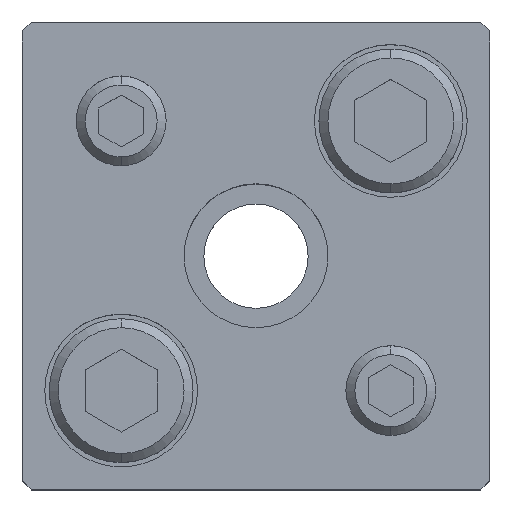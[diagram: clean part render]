
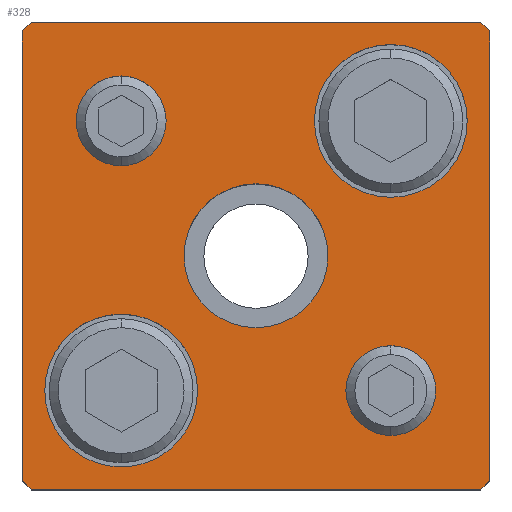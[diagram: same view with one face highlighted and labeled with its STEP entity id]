
A CAD part, top view. The second image highlights one B-rep face of the part: STEP entity #328.
In plain terms, the highlighted planar face has unit normal (0, 0, 1).
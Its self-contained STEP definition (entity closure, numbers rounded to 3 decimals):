
#119=PLANE('',#2702);
#192=FACE_BOUND('',#649,.T.);
#193=FACE_BOUND('',#650,.T.);
#194=FACE_BOUND('',#651,.T.);
#195=FACE_BOUND('',#652,.T.);
#196=FACE_BOUND('',#653,.T.);
#197=FACE_BOUND('',#654,.T.);
#328=ADVANCED_FACE('',(#192,#193,#194,#195,#196,#197),#119,.T.);
#649=EDGE_LOOP('',(#1071,#1072,#1073,#1074,#1075,#1076,#1077,#1078));
#650=EDGE_LOOP('',(#1079,#1080));
#651=EDGE_LOOP('',(#1081,#1082));
#652=EDGE_LOOP('',(#1083,#1084));
#653=EDGE_LOOP('',(#1085,#1086));
#654=EDGE_LOOP('',(#1087,#1088));
#833=CIRCLE('',#2678,5.);
#835=CIRCLE('',#2681,5.);
#837=CIRCLE('',#2684,5.);
#839=CIRCLE('',#2687,5.);
#845=CIRCLE('',#2696,8.5);
#846=CIRCLE('',#2697,8.5);
#847=CIRCLE('',#2698,8.5);
#848=CIRCLE('',#2699,8.5);
#849=CIRCLE('',#2700,8.);
#850=CIRCLE('',#2701,8.);
#1071=ORIENTED_EDGE('',*,*,#1923,.T.);
#1072=ORIENTED_EDGE('',*,*,#1924,.T.);
#1073=ORIENTED_EDGE('',*,*,#1925,.T.);
#1074=ORIENTED_EDGE('',*,*,#1926,.T.);
#1075=ORIENTED_EDGE('',*,*,#1927,.T.);
#1076=ORIENTED_EDGE('',*,*,#1928,.T.);
#1077=ORIENTED_EDGE('',*,*,#1929,.T.);
#1078=ORIENTED_EDGE('',*,*,#1930,.T.);
#1079=ORIENTED_EDGE('',*,*,#1931,.F.);
#1080=ORIENTED_EDGE('',*,*,#1932,.F.);
#1081=ORIENTED_EDGE('',*,*,#1933,.F.);
#1082=ORIENTED_EDGE('',*,*,#1934,.F.);
#1083=ORIENTED_EDGE('',*,*,#1915,.F.);
#1084=ORIENTED_EDGE('',*,*,#1911,.F.);
#1085=ORIENTED_EDGE('',*,*,#1909,.F.);
#1086=ORIENTED_EDGE('',*,*,#1905,.F.);
#1087=ORIENTED_EDGE('',*,*,#1935,.T.);
#1088=ORIENTED_EDGE('',*,*,#1936,.T.);
#1659=VERTEX_POINT('',#3859);
#1660=VERTEX_POINT('',#3860);
#1663=VERTEX_POINT('',#3871);
#1664=VERTEX_POINT('',#3872);
#1671=VERTEX_POINT('',#3895);
#1672=VERTEX_POINT('',#3896);
#1673=VERTEX_POINT('',#3898);
#1674=VERTEX_POINT('',#3900);
#1675=VERTEX_POINT('',#3902);
#1676=VERTEX_POINT('',#3904);
#1677=VERTEX_POINT('',#3906);
#1678=VERTEX_POINT('',#3908);
#1679=VERTEX_POINT('',#3911);
#1680=VERTEX_POINT('',#3912);
#1681=VERTEX_POINT('',#3915);
#1682=VERTEX_POINT('',#3916);
#1683=VERTEX_POINT('',#3919);
#1684=VERTEX_POINT('',#3920);
#1905=EDGE_CURVE('',#1659,#1660,#833,.T.);
#1909=EDGE_CURVE('',#1660,#1659,#835,.T.);
#1911=EDGE_CURVE('',#1663,#1664,#837,.T.);
#1915=EDGE_CURVE('',#1664,#1663,#839,.T.);
#1923=EDGE_CURVE('',#1671,#1672,#2217,.T.);
#1924=EDGE_CURVE('',#1672,#1673,#2218,.T.);
#1925=EDGE_CURVE('',#1673,#1674,#2219,.T.);
#1926=EDGE_CURVE('',#1674,#1675,#2220,.T.);
#1927=EDGE_CURVE('',#1675,#1676,#2221,.T.);
#1928=EDGE_CURVE('',#1676,#1677,#2222,.T.);
#1929=EDGE_CURVE('',#1677,#1678,#2223,.T.);
#1930=EDGE_CURVE('',#1678,#1671,#2224,.T.);
#1931=EDGE_CURVE('',#1679,#1680,#845,.T.);
#1932=EDGE_CURVE('',#1680,#1679,#846,.T.);
#1933=EDGE_CURVE('',#1681,#1682,#847,.T.);
#1934=EDGE_CURVE('',#1682,#1681,#848,.T.);
#1935=EDGE_CURVE('',#1683,#1684,#849,.T.);
#1936=EDGE_CURVE('',#1684,#1683,#850,.T.);
#2217=LINE('',#3894,#2429);
#2218=LINE('',#3897,#2430);
#2219=LINE('',#3899,#2431);
#2220=LINE('',#3901,#2432);
#2221=LINE('',#3903,#2433);
#2222=LINE('',#3905,#2434);
#2223=LINE('',#3907,#2435);
#2224=LINE('',#3909,#2436);
#2429=VECTOR('',#3097,1.);
#2430=VECTOR('',#3098,1.);
#2431=VECTOR('',#3099,1.);
#2432=VECTOR('',#3100,1.);
#2433=VECTOR('',#3101,1.);
#2434=VECTOR('',#3102,1.);
#2435=VECTOR('',#3103,1.);
#2436=VECTOR('',#3104,1.);
#2678=AXIS2_PLACEMENT_3D('',#3858,#3055,#3056);
#2681=AXIS2_PLACEMENT_3D('',#3867,#3063,#3064);
#2684=AXIS2_PLACEMENT_3D('',#3870,#3069,#3070);
#2687=AXIS2_PLACEMENT_3D('',#3879,#3077,#3078);
#2696=AXIS2_PLACEMENT_3D('',#3910,#3105,#3106);
#2697=AXIS2_PLACEMENT_3D('',#3913,#3107,#3108);
#2698=AXIS2_PLACEMENT_3D('',#3914,#3109,#3110);
#2699=AXIS2_PLACEMENT_3D('',#3917,#3111,#3112);
#2700=AXIS2_PLACEMENT_3D('',#3918,#3113,#3114);
#2701=AXIS2_PLACEMENT_3D('',#3921,#3115,#3116);
#2702=AXIS2_PLACEMENT_3D('',#3922,#3117,#3118);
#3055=DIRECTION('',(0.,0.,1.));
#3056=DIRECTION('',(1.,0.,0.));
#3063=DIRECTION('',(0.,0.,1.));
#3064=DIRECTION('',(-1.,0.,0.));
#3069=DIRECTION('',(0.,0.,1.));
#3070=DIRECTION('',(1.,0.,0.));
#3077=DIRECTION('',(0.,0.,1.));
#3078=DIRECTION('',(-1.,0.,0.));
#3097=DIRECTION('',(1.,0.,0.));
#3098=DIRECTION('',(0.707,0.707,0.));
#3099=DIRECTION('',(0.,1.,0.));
#3100=DIRECTION('',(-0.707,0.707,0.));
#3101=DIRECTION('',(-1.,0.,0.));
#3102=DIRECTION('',(-0.707,-0.707,0.));
#3103=DIRECTION('',(0.,-1.,0.));
#3104=DIRECTION('',(0.707,-0.707,0.));
#3105=DIRECTION('',(0.,0.,1.));
#3106=DIRECTION('',(1.,0.,0.));
#3107=DIRECTION('',(0.,0.,1.));
#3108=DIRECTION('',(-1.,0.,0.));
#3109=DIRECTION('',(0.,0.,1.));
#3110=DIRECTION('',(1.,0.,0.));
#3111=DIRECTION('',(0.,0.,1.));
#3112=DIRECTION('',(-1.,0.,0.));
#3113=DIRECTION('',(0.,0.,-1.));
#3114=DIRECTION('',(-1.,0.,0.));
#3115=DIRECTION('',(0.,0.,-1.));
#3116=DIRECTION('',(1.,0.,0.));
#3117=DIRECTION('',(0.,0.,1.));
#3118=DIRECTION('',(-1.,0.,0.));
#3858=CARTESIAN_POINT('',(15.,-15.,35.));
#3859=CARTESIAN_POINT('',(15.,-10.,35.));
#3860=CARTESIAN_POINT('',(15.,-20.,35.));
#3867=CARTESIAN_POINT('',(15.,-15.,35.));
#3870=CARTESIAN_POINT('',(-15.,15.,35.));
#3871=CARTESIAN_POINT('',(-15.,20.,35.));
#3872=CARTESIAN_POINT('',(-15.,10.,35.));
#3879=CARTESIAN_POINT('',(-15.,15.,35.));
#3894=CARTESIAN_POINT('',(25.,-26.,35.));
#3895=CARTESIAN_POINT('',(-25.,-26.,35.));
#3896=CARTESIAN_POINT('',(25.,-26.,35.));
#3897=CARTESIAN_POINT('',(26.,-25.,35.));
#3898=CARTESIAN_POINT('',(26.,-25.,35.));
#3899=CARTESIAN_POINT('',(26.,25.,35.));
#3900=CARTESIAN_POINT('',(26.,25.,35.));
#3901=CARTESIAN_POINT('',(25.,26.,35.));
#3902=CARTESIAN_POINT('',(25.,26.,35.));
#3903=CARTESIAN_POINT('',(-25.,26.,35.));
#3904=CARTESIAN_POINT('',(-25.,26.,35.));
#3905=CARTESIAN_POINT('',(-26.,25.,35.));
#3906=CARTESIAN_POINT('',(-26.,25.,35.));
#3907=CARTESIAN_POINT('',(-26.,-25.,35.));
#3908=CARTESIAN_POINT('',(-26.,-25.,35.));
#3909=CARTESIAN_POINT('',(-25.,-26.,35.));
#3910=CARTESIAN_POINT('',(-15.,-15.,35.));
#3911=CARTESIAN_POINT('',(-15.,-6.5,35.));
#3912=CARTESIAN_POINT('',(-15.,-23.5,35.));
#3913=CARTESIAN_POINT('',(-15.,-15.,35.));
#3914=CARTESIAN_POINT('',(15.,15.,35.));
#3915=CARTESIAN_POINT('',(15.,23.5,35.));
#3916=CARTESIAN_POINT('',(15.,6.5,35.));
#3917=CARTESIAN_POINT('',(15.,15.,35.));
#3918=CARTESIAN_POINT('',(0.,0.,35.));
#3919=CARTESIAN_POINT('',(0.,8.,35.));
#3920=CARTESIAN_POINT('',(0.,-8.,35.));
#3921=CARTESIAN_POINT('',(0.,0.,35.));
#3922=CARTESIAN_POINT('',(-25.,-26.,35.));
